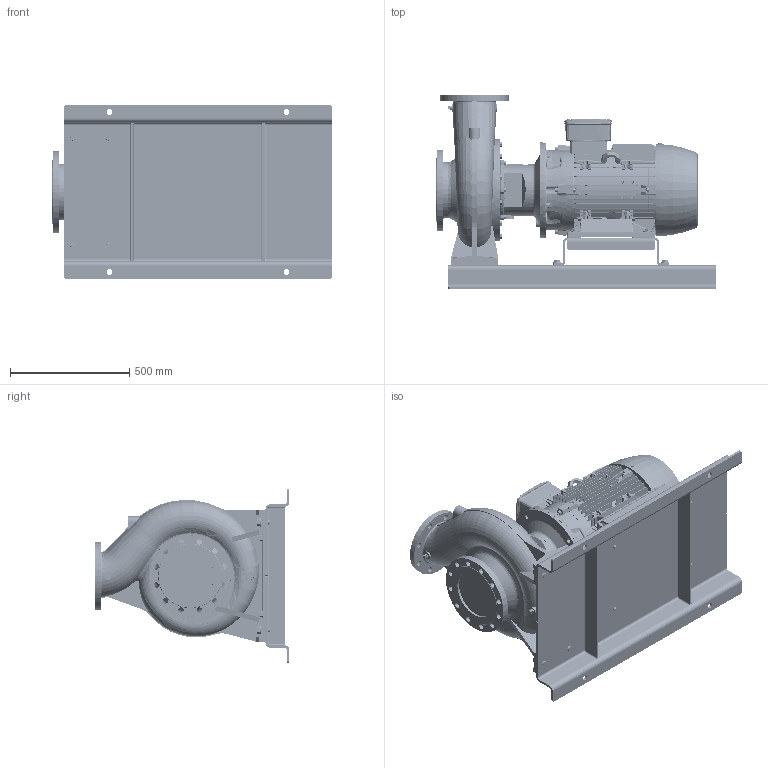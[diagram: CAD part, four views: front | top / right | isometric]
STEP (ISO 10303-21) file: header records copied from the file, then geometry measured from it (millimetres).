
FILE_DESCRIPTION (( 'STEP AP214' ), '1' );
FILE_NAME ('GSD4 150-315_30_(200ML)_W21_BP.STEP', '2026-05-08T00:16:43', ( '' ), ( '' ), 'SwSTEP 2.0', 'SolidWorks 2024', '' );
FILE_SCHEMA (( 'AUTOMOTIVE_DESIGN' ));
Length unit declared in the file: millimetre
Products named in the file (13): Parametric bolt and washer_SFT-A403B; N9S4 GSDA-94E F1-1832982-00; 150-315-200M_L_ﾃﾞﾌｫﾙﾄ; Parametric bolt_SFT-A359B; 200M_L ALIE3_W21T_B35; Parametric Flat Washer_M16; Parametric bolt and washer_SFT-A351B; GSD4 150-315_30_(200ML)_W21_BP; CGS11-5274; Parametric Flat Washer_M20; Parametric bolt_SFT-A403B; Parametric bolt_SFT-A351B; Parametric bolt and washer_SFT-A359B
Assembly tree (22 placements, depth 3):
  GSD4 150-315_30_(200ML)_W21_BP
    150-315-200M_L_ﾃﾞﾌｫﾙﾄ
    N9S4 GSDA-94E F1-1832982-00
    CGS11-5274
    Parametric bolt and washer_SFT-A403B  x4
      Parametric bolt_SFT-A403B
      Parametric Flat Washer_M20
    Parametric bolt and washer_SFT-A351B  x4
      Parametric bolt_SFT-A351B
      Parametric Flat Washer_M16
    Parametric bolt and washer_SFT-A359B  x4
      Parametric bolt_SFT-A359B
      Parametric Flat Washer_M16
    200M_L ALIE3_W21T_B35
Bounding box: 1170 x 815 x 730 mm (x, y, z)
Volume: 130500420.8 mm3; surface area: 7746501.4 mm2
Topology: 50 solids, 60 shells, 7603 faces, 19711 edges, 12700 vertices
Faces by surface type: plane 4346, cylinder 1476, bspline 943, cone 638, torus 200
Entity records: 299345 total; most frequent: CARTESIAN_POINT 138367, ORIENTED_EDGE 35958, DIRECTION 28980, EDGE_CURVE 17979, VERTEX_POINT 11629, LINE 11046, VECTOR 11046, AXIS2_PLACEMENT_3D 8967
